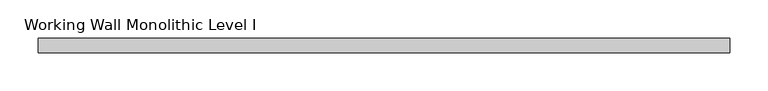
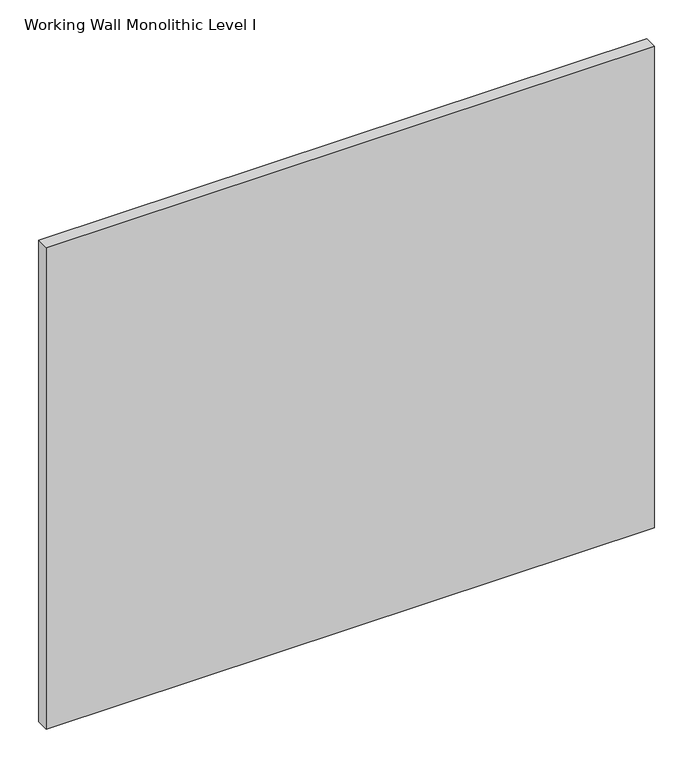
"""IFC4 building model written with IfcOpenShell, lengths in millimetres: proxy geometry, Panel-Fascia-Teknion-Altos : Working Wall Monolithic Level I."""

import ifcopenshell
import ifcopenshell.guid

model = None  # the IFC model being written
_history = None  # IfcOwnerHistory: only IFC2X3 demands one
_inside = {}  # id of a spatial element -> (the spatial element, [elements in it])
_under = {}  # id of a project, library or spatial element -> (it, [spatial elements below it])
_declared = {}  # id of a project -> (the project, [libraries it declares])
_typed = {}  # id of a type object -> (the type object, [elements of that type])
_made_of = {}  # id of a material, layer set ... -> (it, [elements and type objects made of it])


def new_model(schema):
    """Start an empty IFC model of exactly this schema.

    Asked for "IFC4X3", IfcOpenShell would pick the latest addendum, in which some entities
    have other attributes; the version numbers below select the first issue.
    IFC2X3 requires an IfcOwnerHistory on every rooted entity: one is made here for all.
    """
    global model, _history
    if schema == "IFC4X3":
        model = ifcopenshell.file(schema_version=(4, 3, 0, 0))
    else:
        model = ifcopenshell.file(schema=schema)
    _inside.clear()
    _under.clear()
    _declared.clear()
    _typed.clear()
    _made_of.clear()
    _history = None
    if model.schema == "IFC2X3":
        org = make("IfcOrganization", Name="unknown")
        user = make(
            "IfcPersonAndOrganization",
            ThePerson=make("IfcPerson", FamilyName="unknown"),
            TheOrganization=org,
        )
        app = make(
            "IfcApplication",
            ApplicationDeveloper=org,
            Version="unknown",
            ApplicationFullName="unknown",
            ApplicationIdentifier="unknown",
        )
        _history = make(
            "IfcOwnerHistory",
            OwningUser=user,
            OwningApplication=app,
            ChangeAction="ADDED",
            CreationDate=0,
        )
    return model


def make(cls, **values):
    """One entity of the class cls with the attributes given. An attribute that is None is left unset."""
    return model.create_entity(
        cls, **{name: value for name, value in values.items() if value is not None}
    )


def rooted(cls, **values):
    """An entity with a GlobalId (a new one), such as an element, a storey or a relation."""
    return make(cls, GlobalId=ifcopenshell.guid.new(), OwnerHistory=_history, **values)


def si_unit(unit_type, name, prefix=None):
    """IfcSIUnit, for example si_unit("LENGTHUNIT", "METRE", prefix="MILLI")."""
    return make("IfcSIUnit", UnitType=unit_type, Prefix=prefix, Name=name)


def assignment(units):
    """IfcUnitAssignment: the units of a project."""
    return None if units is None else make("IfcUnitAssignment", Units=units)


def point(xyz):
    """IfcCartesianPoint."""
    return None if xyz is None else make("IfcCartesianPoint", Coordinates=xyz)


def direction(xyz):
    """IfcDirection."""
    return None if xyz is None else make("IfcDirection", DirectionRatios=xyz)


def frame(location, z_axis=None, x_axis=None):
    """IfcAxis2Placement3D, a coordinate frame: its origin and axes. An axis left out is left unset."""
    return make(
        "IfcAxis2Placement3D",
        Location=point(location),
        Axis=direction(z_axis),
        RefDirection=direction(x_axis),
    )


def origin():
    """The frame at (0, 0, 0) with its axes left unset."""
    return frame((0.0, 0.0, 0.0))


def place(relative_to, where):
    """IfcLocalPlacement: puts the frame where relative to a parent placement (None: the world)."""
    return make(
        "IfcLocalPlacement", PlacementRelTo=relative_to, RelativePlacement=where
    )


def context(
    kind, dimensions, precision=None, world=None, true_north=None, identifier=None
):
    """IfcGeometricRepresentationContext, for example the 3D "Model" context."""
    return make(
        "IfcGeometricRepresentationContext",
        ContextIdentifier=identifier,
        ContextType=kind,
        CoordinateSpaceDimension=dimensions,
        Precision=precision,
        WorldCoordinateSystem=world,
        TrueNorth=true_north,
    )


def project(units=None, contexts=None):
    """IfcProject with its units and contexts."""
    return rooted(
        "IfcProject",
        Name="project",
        RepresentationContexts=contexts,
        UnitsInContext=assignment(units),
    )


def spatial(cls, under=None, at=None, **own):
    """A site, building, storey or space (cls), placed at a placement, below another one or the project."""
    s = rooted(cls, ObjectPlacement=at, **own)
    if under is not None:
        _under.setdefault(under.id(), (under, []))[1].append(s)
    return s


def polyline(points):
    """IfcPolyline through the points."""
    return make("IfcPolyline", Points=[point(p) for p in points])


def outline(outer, holes=None, kind="AREA"):
    """IfcArbitraryClosedProfileDef: a profile drawn as a closed curve; with holes, ...WithVoids."""
    if holes is None:
        return make("IfcArbitraryClosedProfileDef", ProfileType=kind, OuterCurve=outer)
    return make(
        "IfcArbitraryProfileDefWithVoids",
        ProfileType=kind,
        OuterCurve=outer,
        InnerCurves=holes,
    )


def extrude(swept, where, along, depth):
    """IfcExtrudedAreaSolid: the profile swept, set in the frame where, extruded along a direction by depth."""
    return make(
        "IfcExtrudedAreaSolid",
        SweptArea=swept,
        Position=where,
        ExtrudedDirection=direction(along),
        Depth=depth,
    )


def shape(context_of_items, identifier, shape_type, items):
    """IfcShapeRepresentation: the items that make up one representation, for example the "Body"."""
    return make(
        "IfcShapeRepresentation",
        ContextOfItems=context_of_items,
        RepresentationIdentifier=identifier,
        RepresentationType=shape_type,
        Items=items,
    )


def source(mapping_origin, context_of_items, identifier, shape_type, items):
    """IfcRepresentationMap: a shape defined once, which mapped items show again and again."""
    return make(
        "IfcRepresentationMap",
        MappingOrigin=mapping_origin,
        MappedRepresentation=shape(context_of_items, identifier, shape_type, items),
    )


def transform(
    local_origin,
    x_axis=None,
    y_axis=None,
    z_axis=None,
    scale=None,
    scale2=None,
    scale3=None,
    uniform=True,
):
    """IfcCartesianTransformationOperator3D, or its non-uniform kind. x_axis, y_axis, z_axis: its Axis1, 2, 3."""
    if uniform:
        return make(
            "IfcCartesianTransformationOperator3D",
            Axis1=direction(x_axis),
            Axis2=direction(y_axis),
            LocalOrigin=point(local_origin),
            Scale=scale,
            Axis3=direction(z_axis),
        )
    return make(
        "IfcCartesianTransformationOperator3DnonUniform",
        Axis1=direction(x_axis),
        Axis2=direction(y_axis),
        LocalOrigin=point(local_origin),
        Scale=scale,
        Axis3=direction(z_axis),
        Scale2=scale2,
        Scale3=scale3,
    )


def mapped(mapping_source, mapping_target):
    """IfcMappedItem: shows the shape of a source again, moved by a transform."""
    return make(
        "IfcMappedItem", MappingSource=mapping_source, MappingTarget=mapping_target
    )


def made_of(thing, what):
    """Note that an element or type object is made of a material, layer set ...; save() writes the relation."""
    if what is not None:
        _made_of.setdefault(what.id(), (what, []))[1].append(thing)
    return thing


def element(
    cls,
    number,
    at=None,
    inside=None,
    cuts=None,
    type_object=None,
    material=None,
    context=None,
    identifier="Body",
    shape_type=None,
    held_by="IfcProductDefinitionShape",
    body=None,
    shapes=None,
    **own,
):
    """One element of the class cls, such as IfcWall. Its Tag is "e" and its number.

    at: its placement. inside: the storey or other place that contains it. cuts: it is an
    opening in that element (IfcRelVoidsElement). A single representation is given by context,
    identifier, shape_type and body (its items); several are given by shapes. held_by: the class
    of the entity that holds the representations. save() writes the other relations.
    """
    e = rooted(cls, Tag="e%d" % number, ObjectPlacement=at, **own)
    if body is not None:
        shapes = [shape(context, identifier, shape_type, body)]
    if shapes is not None:
        e.Representation = make(held_by, Representations=shapes)
    if inside is not None:
        _inside.setdefault(inside.id(), (inside, []))[1].append(e)
    if cuts is not None:
        rooted(
            "IfcRelVoidsElement", RelatingBuildingElement=cuts, RelatedOpeningElement=e
        )
    if type_object is not None:
        _typed.setdefault(type_object.id(), (type_object, []))[1].append(e)
    return made_of(e, material)


def aggregate(whole, parts):
    """IfcRelAggregates: a whole, such as a stair, and the parts it consists of."""
    return rooted("IfcRelAggregates", RelatingObject=whole, RelatedObjects=parts)


def save(model, path):
    """Write the relations noted so far, then the file.

    IfcRelAggregates (storeys below a building ...), IfcRelContainedInSpatialStructure (elements
    in a storey), IfcRelDefinesByType, IfcRelAssociatesMaterial and IfcRelDeclares: one each for
    every whole, place, type object, material and project.
    """
    for whole, parts in _under.values():
        aggregate(whole, parts)
    for where, things in _inside.values():
        rooted(
            "IfcRelContainedInSpatialStructure",
            RelatedElements=things,
            RelatingStructure=where,
        )
    for kind, things in _typed.values():
        rooted("IfcRelDefinesByType", RelatedObjects=things, RelatingType=kind)
    for what, things in _made_of.values():
        rooted("IfcRelAssociatesMaterial", RelatedObjects=things, RelatingMaterial=what)
    for by, libraries in _declared.values():
        rooted("IfcRelDeclares", RelatingContext=by, RelatedDefinitions=libraries)
    model.write(path)


def working_wall_monolithic_level_i_0b7852cd(model_context):
    return source(origin(), model_context, "Body", "SweptSolid", [
        extrude(outline(polyline([(454.0305563, 9.525), (454.0305563, -9.525), (-454.0305562, -9.525), (-454.0305562, 9.525), (454.0305563, 9.525)])), frame((0.0, 0.0, 3.175), z_axis=(0.0, 0.0, 1.0), x_axis=(1.0, 0.0, 0.0)), (0.0, 0.0, 1.0), 759.968),
    ])


if __name__ == "__main__":
    model = new_model("IFC4")
    model_context = context("Model", 3, world=origin())
    ifc_project = project(units=[si_unit("LENGTHUNIT", "METRE", prefix="MILLI")], contexts=[model_context])
    site = spatial("IfcSite", under=ifc_project)
    building = spatial("IfcBuilding", under=site)
    placement = place(None, origin())
    working_wall_monolithic_level_i_shape = working_wall_monolithic_level_i_0b7852cd(model_context)
    element("IfcBuildingElementProxy", 1, Name="Panel-Fascia-Teknion-Altos : Working Wall Monolithic Level I", ObjectType="Panel-Fascia-Teknion-Altos : Working Wall Monolithic Level I", at=placement, inside=building, context=model_context, shape_type="MappedRepresentation", body=[
        mapped(working_wall_monolithic_level_i_shape, transform((0.0, 0.0, 0.0), x_axis=(1.0, 0.0, 0.0), y_axis=(0.0, 1.0, 0.0), z_axis=(0.0, 0.0, 1.0))),
    ])
    save(model, "model.ifc")
